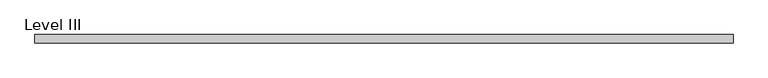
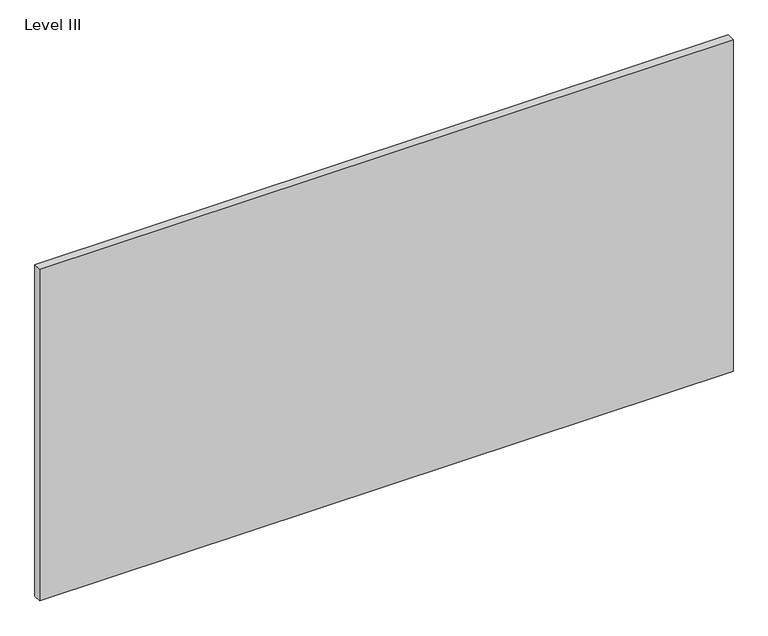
"""IFC4 building model written with IfcOpenShell, lengths in millimetres: proxy geometry, Panel-Fascia-Teknion-Altos-Landscape : Level III."""

from ifc_helpers import new_model, si_unit, frame, origin, place, context, project, spatial, polyline, outline, extrude, source, transform, mapped, element, save


def level_iii_fe696794(model_context):
    return source(origin(), model_context, "Body", "SweptSolid", [
        extrude(outline(polyline([(795.6407125, 9.525), (795.6407125, -9.525), (-795.6407125, -9.525), (-795.6407125, 9.525), (795.6407125, 9.525)])), frame((0.0, 0.0, 3.175), z_axis=(0.0, 0.0, 1.0), x_axis=(1.0, 0.0, 0.0)), (0.0, 0.0, 1.0), 804.418),
    ])


if __name__ == "__main__":
    model = new_model("IFC4")
    model_context = context("Model", 3, world=origin())
    ifc_project = project(units=[si_unit("LENGTHUNIT", "METRE", prefix="MILLI")], contexts=[model_context])
    site = spatial("IfcSite", under=ifc_project)
    building = spatial("IfcBuilding", under=site)
    placement = place(None, origin())
    level_iii_shape = level_iii_fe696794(model_context)
    element("IfcBuildingElementProxy", 1, Name="Panel-Fascia-Teknion-Altos-Landscape : Level III", ObjectType="Panel-Fascia-Teknion-Altos-Landscape : Level III", at=placement, inside=building, context=model_context, shape_type="MappedRepresentation", body=[
        mapped(level_iii_shape, transform((0.0, 0.0, 0.0), x_axis=(1.0, 0.0, 0.0), y_axis=(0.0, 1.0, 0.0), z_axis=(0.0, 0.0, 1.0))),
    ])
    save(model, "model.ifc")
